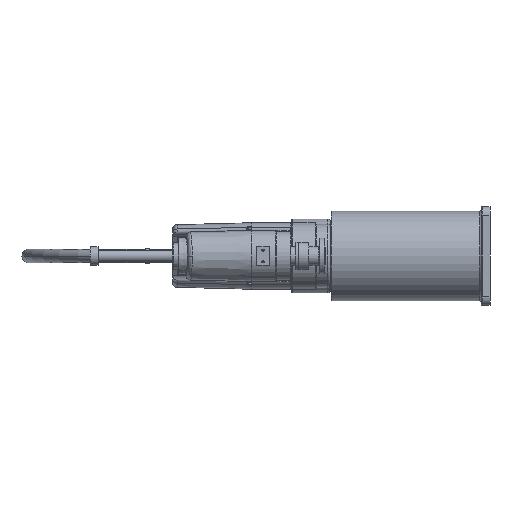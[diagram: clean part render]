
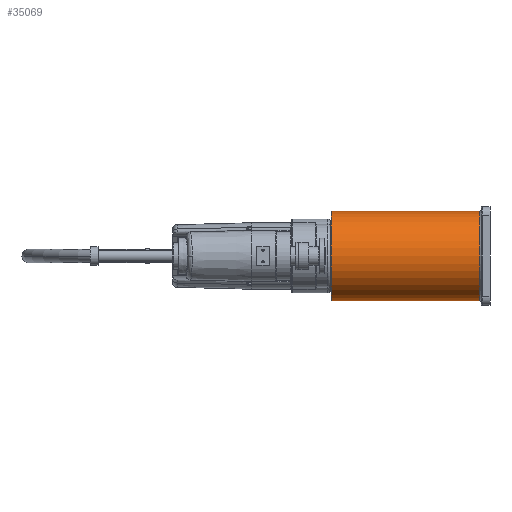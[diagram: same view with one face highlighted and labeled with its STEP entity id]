
A CAD part, left-side view. The second image highlights one B-rep face of the part: STEP entity #35069.
In plain terms, the highlighted cylindrical face has radius 100 mm (diameter 200 mm), a partial arc.
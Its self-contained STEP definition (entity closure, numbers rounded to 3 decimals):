
#3 = EDGE_CURVE ( 'NONE', #43186, #34752, #19529, .T. ) ;
#229 = CYLINDRICAL_SURFACE ( 'NONE', #27894, 100. ) ;
#2374 = LINE ( 'NONE', #14188, #33928 ) ;
#2804 = FACE_OUTER_BOUND ( 'NONE', #28370, .T. ) ;
#3347 = DIRECTION ( 'NONE',  ( 0., 0., -1. ) ) ;
#5393 = DIRECTION ( 'NONE',  ( 0., -1., 0. ) ) ;
#5550 = CARTESIAN_POINT ( 'NONE',  ( 0., 23., 0. ) ) ;
#5867 = VERTEX_POINT ( 'NONE', #13897 ) ;
#6406 = AXIS2_PLACEMENT_3D ( 'NONE', #21750, #42459, #38649 ) ;
#9690 = CARTESIAN_POINT ( 'NONE',  ( 0., 23., 100. ) ) ;
#10067 = DIRECTION ( 'NONE',  ( 0., -1., 0. ) ) ;
#11358 = CARTESIAN_POINT ( 'NONE',  ( 0., 353., 100. ) ) ;
#12569 = ORIENTED_EDGE ( 'NONE', *, *, #43521, .T. ) ;
#13897 = CARTESIAN_POINT ( 'NONE',  ( 0., 23., -100. ) ) ;
#14188 = CARTESIAN_POINT ( 'NONE',  ( 0., 332., -100. ) ) ;
#14367 = AXIS2_PLACEMENT_3D ( 'NONE', #5550, #22312, #51310 ) ;
#15627 = VECTOR ( 'NONE', #10067, 1000. ) ;
#16181 = ORIENTED_EDGE ( 'NONE', *, *, #3, .F. ) ;
#19072 = ORIENTED_EDGE ( 'NONE', *, *, #51613, .F. ) ;
#19529 = LINE ( 'NONE', #26811, #15627 ) ;
#21750 = CARTESIAN_POINT ( 'NONE',  ( 0., 353., 0. ) ) ;
#22312 = DIRECTION ( 'NONE',  ( 0., 1., 0. ) ) ;
#25241 = VERTEX_POINT ( 'NONE', #45942 ) ;
#26811 = CARTESIAN_POINT ( 'NONE',  ( 0., 332., 100. ) ) ;
#27894 = AXIS2_PLACEMENT_3D ( 'NONE', #36102, #32483, #3347 ) ;
#28370 = EDGE_LOOP ( 'NONE', ( #16181, #19072, #45274, #12569 ) ) ;
#28960 = EDGE_CURVE ( 'NONE', #25241, #5867, #2374, .T. ) ;
#30923 = CIRCLE ( 'NONE', #14367, 100. ) ;
#32483 = DIRECTION ( 'NONE',  ( 0., -1., 0. ) ) ;
#32650 = CIRCLE ( 'NONE', #6406, 100. ) ;
#33928 = VECTOR ( 'NONE', #5393, 1000. ) ;
#34752 = VERTEX_POINT ( 'NONE', #9690 ) ;
#35069 = ADVANCED_FACE ( 'NONE', ( #2804 ), #229, .T. ) ;
#36102 = CARTESIAN_POINT ( 'NONE',  ( 0., 332., 0. ) ) ;
#38649 = DIRECTION ( 'NONE',  ( 0., 0., 1. ) ) ;
#42459 = DIRECTION ( 'NONE',  ( 0., 1., 0. ) ) ;
#43186 = VERTEX_POINT ( 'NONE', #11358 ) ;
#43521 = EDGE_CURVE ( 'NONE', #5867, #34752, #30923, .T. ) ;
#45274 = ORIENTED_EDGE ( 'NONE', *, *, #28960, .T. ) ;
#45942 = CARTESIAN_POINT ( 'NONE',  ( 0., 353., -100. ) ) ;
#51310 = DIRECTION ( 'NONE',  ( 0., 0., 1. ) ) ;
#51613 = EDGE_CURVE ( 'NONE', #25241, #43186, #32650, .T. ) ;
